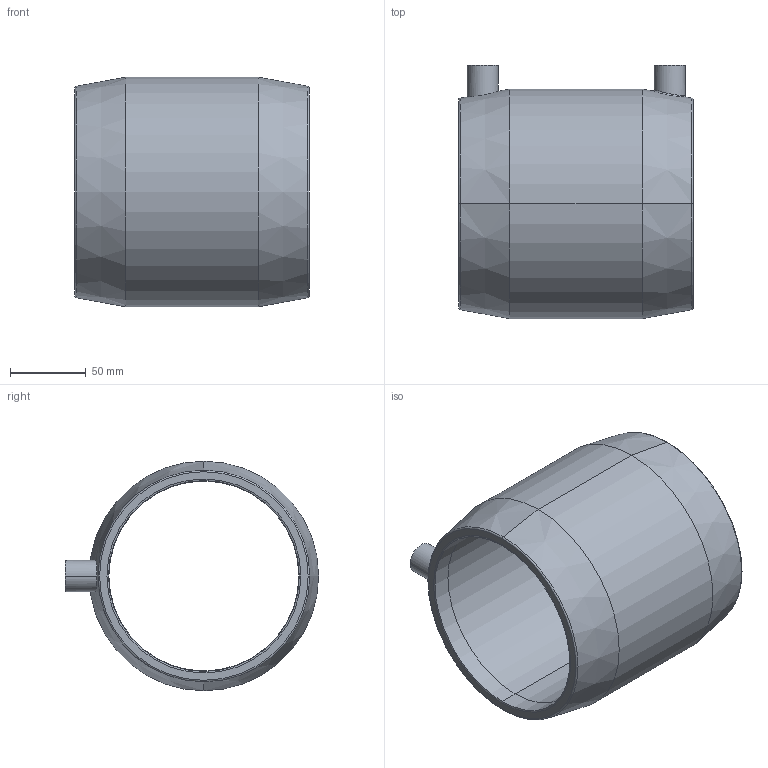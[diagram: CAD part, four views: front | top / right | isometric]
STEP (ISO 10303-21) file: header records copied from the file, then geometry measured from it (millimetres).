
FILE_DESCRIPTION (( 'STEP AP214' ), '1' );
FILE_NAME ('CBKHA125.STEP', '2018-09-19T14:10:45', ( '' ), ( '' ), 'SwSTEP 2.0', 'SolidWorks 2017', '' );
FILE_SCHEMA (( 'AUTOMOTIVE_DESIGN' ));
Length unit declared in the file: millimetre
Products named in the file (1): CBKHA125
Bounding box: 154.2 x 166.64 x 151 mm (x, y, z)
Volume: 782796.6 mm3; surface area: 142379.7 mm2
Topology: 1 solids, 1 shells, 54 faces, 110 edges, 64 vertices
Faces by surface type: cone 20, cylinder 16, torus 8, plane 8, bspline 2
Entity records: 2102 total; most frequent: CARTESIAN_POINT 791, DIRECTION 274, ORIENTED_EDGE 220, AXIS2_PLACEMENT_3D 119, EDGE_CURVE 110, CIRCLE 66, VERTEX_POINT 64, EDGE_LOOP 62
